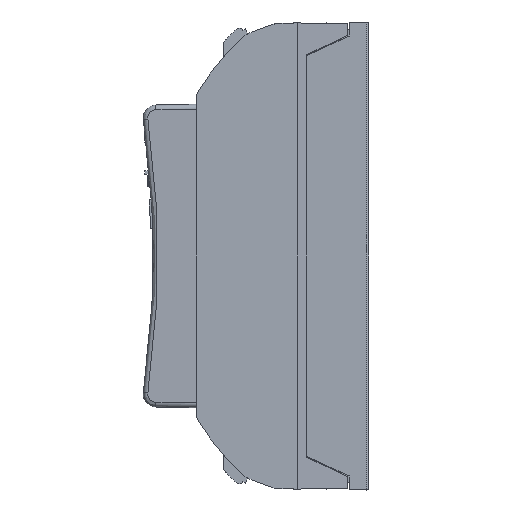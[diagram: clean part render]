
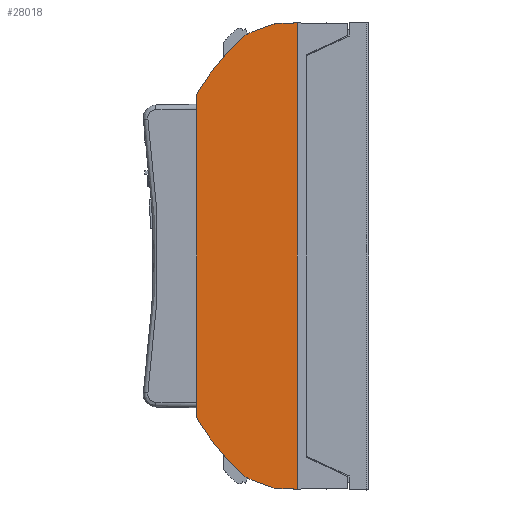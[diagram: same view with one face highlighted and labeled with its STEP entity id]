
A CAD part, left-side view. The second image highlights one B-rep face of the part: STEP entity #28018.
In plain terms, the highlighted planar face has unit normal (-1, 0.009, 0).
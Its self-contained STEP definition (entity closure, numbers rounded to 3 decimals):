
#2278=FACE_OUTER_BOUND('',#4100,.T.);
#4100=EDGE_LOOP('',(#21715,#21716,#21717,#21718,#21719,#21720,#21721,#21722,
#21723,#21724,#21725,#21726,#21727,#21728));
#5144=ELLIPSE('',#30278,0.5,0.5);
#5146=ELLIPSE('',#30285,0.5,0.5);
#5147=ELLIPSE('',#30286,5.,5.);
#5148=ELLIPSE('',#30287,0.2,0.2);
#5149=ELLIPSE('',#30288,0.2,0.2);
#5150=ELLIPSE('',#30289,5.,5.);
#5151=ELLIPSE('',#30290,0.5,0.5);
#5152=ELLIPSE('',#30291,0.5,0.5);
#6329=LINE('',#44762,#9146);
#6781=LINE('',#45827,#9598);
#6894=LINE('',#46074,#9711);
#6901=LINE('',#46090,#9718);
#6903=LINE('',#46108,#9720);
#6904=LINE('',#46110,#9721);
#9146=VECTOR('',#34823,0.409);
#9598=VECTOR('',#35601,6.795);
#9711=VECTOR('',#35820,0.409);
#9718=VECTOR('',#35837,0.49);
#9720=VECTOR('',#35857,0.49);
#9721=VECTOR('',#35860,9.939);
#12141=VERTEX_POINT('',#44640);
#12187=VERTEX_POINT('',#44760);
#12599=VERTEX_POINT('',#45824);
#12600=VERTEX_POINT('',#45826);
#12680=VERTEX_POINT('',#46071);
#12681=VERTEX_POINT('',#46073);
#12682=VERTEX_POINT('',#46077);
#12685=VERTEX_POINT('',#46088);
#12687=VERTEX_POINT('',#46096);
#12688=VERTEX_POINT('',#46098);
#12689=VERTEX_POINT('',#46101);
#12690=VERTEX_POINT('',#46103);
#12691=VERTEX_POINT('',#46105);
#12692=VERTEX_POINT('',#46107);
#15331=EDGE_CURVE('',#12141,#12187,#6329,.T.);
#15848=EDGE_CURVE('',#12600,#12599,#6781,.T.);
#15976=EDGE_CURVE('',#12681,#12680,#6894,.T.);
#15979=EDGE_CURVE('',#12682,#12187,#5144,.T.);
#15984=EDGE_CURVE('',#12682,#12685,#6901,.F.);
#15987=EDGE_CURVE('',#12687,#12685,#5146,.T.);
#15988=EDGE_CURVE('',#12687,#12688,#5147,.F.);
#15989=EDGE_CURVE('',#12600,#12688,#5148,.T.);
#15990=EDGE_CURVE('',#12689,#12599,#5149,.T.);
#15991=EDGE_CURVE('',#12689,#12690,#5150,.F.);
#15992=EDGE_CURVE('',#12691,#12690,#5151,.T.);
#15993=EDGE_CURVE('',#12691,#12692,#6903,.F.);
#15994=EDGE_CURVE('',#12681,#12692,#5152,.T.);
#15995=EDGE_CURVE('',#12680,#12141,#6904,.T.);
#21715=ORIENTED_EDGE('',*,*,#15331,.T.);
#21716=ORIENTED_EDGE('',*,*,#15979,.F.);
#21717=ORIENTED_EDGE('',*,*,#15984,.T.);
#21718=ORIENTED_EDGE('',*,*,#15987,.F.);
#21719=ORIENTED_EDGE('',*,*,#15988,.T.);
#21720=ORIENTED_EDGE('',*,*,#15989,.F.);
#21721=ORIENTED_EDGE('',*,*,#15848,.T.);
#21722=ORIENTED_EDGE('',*,*,#15990,.F.);
#21723=ORIENTED_EDGE('',*,*,#15991,.T.);
#21724=ORIENTED_EDGE('',*,*,#15992,.F.);
#21725=ORIENTED_EDGE('',*,*,#15993,.T.);
#21726=ORIENTED_EDGE('',*,*,#15994,.F.);
#21727=ORIENTED_EDGE('',*,*,#15976,.T.);
#21728=ORIENTED_EDGE('',*,*,#15995,.T.);
#26496=PLANE('',#30284);
#28018=ADVANCED_FACE('',(#2278),#26496,.T.);
#30278=AXIS2_PLACEMENT_3D('',#46079,#35825,#35826);
#30284=AXIS2_PLACEMENT_3D('',#46095,#35843,#35844);
#30285=AXIS2_PLACEMENT_3D('',#46097,#35845,#35846);
#30286=AXIS2_PLACEMENT_3D('',#46099,#35847,#35848);
#30287=AXIS2_PLACEMENT_3D('',#46100,#35849,#35850);
#30288=AXIS2_PLACEMENT_3D('',#46102,#35851,#35852);
#30289=AXIS2_PLACEMENT_3D('',#46104,#35853,#35854);
#30290=AXIS2_PLACEMENT_3D('',#46106,#35855,#35856);
#30291=AXIS2_PLACEMENT_3D('',#46109,#35858,#35859);
#34823=DIRECTION('',(0.009,1.,-0.009));
#35601=DIRECTION('',(0.,0.,-1.));
#35820=DIRECTION('',(-0.009,-1.,-0.009));
#35825=DIRECTION('center_axis',(1.,-0.009,
0.));
#35826=DIRECTION('ref_axis',(0.009,1.,0.));
#35837=DIRECTION('',(-0.009,-0.94,0.342));
#35843=DIRECTION('center_axis',(-1.,0.009,
0.));
#35844=DIRECTION('ref_axis',(0.009,1.,0.));
#35845=DIRECTION('center_axis',(1.,-0.009,
0.));
#35846=DIRECTION('ref_axis',(0.009,1.,0.));
#35847=DIRECTION('center_axis',(1.,-0.009,
0.));
#35848=DIRECTION('ref_axis',(0.009,1.,0.));
#35849=DIRECTION('center_axis',(1.,-0.009,
0.));
#35850=DIRECTION('ref_axis',(0.009,1.,0.));
#35851=DIRECTION('center_axis',(1.,-0.009,
0.));
#35852=DIRECTION('ref_axis',(0.009,1.,0.));
#35853=DIRECTION('center_axis',(1.,-0.009,
0.));
#35854=DIRECTION('ref_axis',(0.009,1.,0.));
#35855=DIRECTION('center_axis',(1.,-0.009,
0.));
#35856=DIRECTION('ref_axis',(0.009,1.,0.));
#35857=DIRECTION('',(0.009,0.94,0.342));
#35858=DIRECTION('center_axis',(1.,-0.009,
0.));
#35859=DIRECTION('ref_axis',(0.009,1.,0.));
#35860=DIRECTION('',(0.,0.,1.));
#44640=CARTESIAN_POINT('',(-2.241,1.228,4.969));
#44760=CARTESIAN_POINT('',(-2.237,1.637,4.966));
#44762=CARTESIAN_POINT('',(-2.238,1.51,4.967));
#45824=CARTESIAN_POINT('',(-2.221,3.37,-3.398));
#45826=CARTESIAN_POINT('',(-2.221,3.37,3.398));
#45827=CARTESIAN_POINT('',(-2.221,3.37,0.));
#46071=CARTESIAN_POINT('',(-2.241,1.228,-4.969));
#46073=CARTESIAN_POINT('',(-2.237,1.637,-4.966));
#46074=CARTESIAN_POINT('',(-2.241,1.26,-4.969));
#46077=CARTESIAN_POINT('',(-2.236,1.744,4.94));
#46079=CARTESIAN_POINT('Origin',(-2.238,1.573,4.47));
#46088=CARTESIAN_POINT('',(-2.232,2.205,4.772));
#46090=CARTESIAN_POINT('',(-2.231,2.287,4.742));
#46095=CARTESIAN_POINT('Origin',(-2.241,1.228,0.));
#46096=CARTESIAN_POINT('',(-2.23,2.365,4.677));
#46097=CARTESIAN_POINT('Origin',(-2.233,2.034,4.302));
#46098=CARTESIAN_POINT('',(-2.221,3.342,3.5));
#46099=CARTESIAN_POINT('Origin',(-2.262,-0.949,0.932));
#46100=CARTESIAN_POINT('Origin',(-2.223,3.17,3.398));
#46101=CARTESIAN_POINT('',(-2.221,3.342,-3.5));
#46102=CARTESIAN_POINT('Origin',(-2.223,3.17,-3.398));
#46103=CARTESIAN_POINT('',(-2.23,2.365,-4.677));
#46104=CARTESIAN_POINT('Origin',(-2.262,-0.949,-0.932));
#46105=CARTESIAN_POINT('',(-2.232,2.205,-4.772));
#46106=CARTESIAN_POINT('Origin',(-2.233,2.034,-4.302));
#46107=CARTESIAN_POINT('',(-2.236,1.744,-4.94));
#46108=CARTESIAN_POINT('',(-2.228,2.584,-4.634));
#46109=CARTESIAN_POINT('Origin',(-2.238,1.573,-4.47));
#46110=CARTESIAN_POINT('',(-2.241,1.228,0.));
